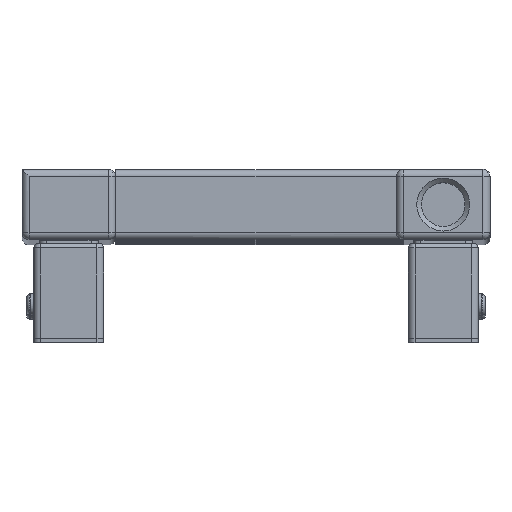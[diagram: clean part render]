
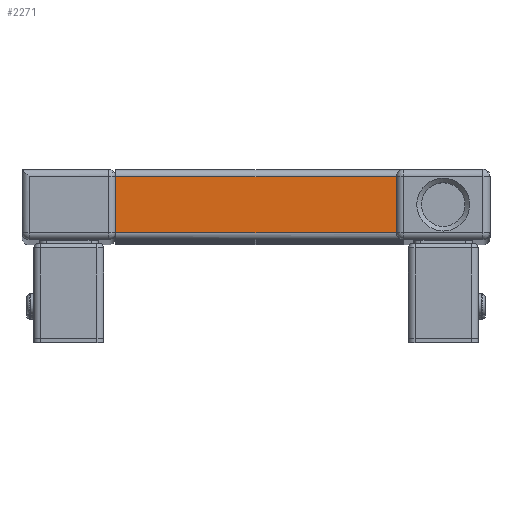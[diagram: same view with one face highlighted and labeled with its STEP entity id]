
A CAD part, top view. The second image highlights one B-rep face of the part: STEP entity #2271.
In plain terms, the highlighted planar face has unit normal (0, 0, 1).
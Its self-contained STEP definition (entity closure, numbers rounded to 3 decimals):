
#2204=CARTESIAN_POINT('',(60.,-12.,1220.0));
#2205=VERTEX_POINT('',#2204);
#2215=CARTESIAN_POINT('',(-60.0,-12.,1220.));
#2216=VERTEX_POINT('',#2215);
#2217=CARTESIAN_POINT('',(-60.0,-12.,1220.));
#2218=DIRECTION('',(1.0,0.0,0.0));
#2219=VECTOR('',#2218,120.0);
#2220=LINE('',#2217,#2219);
#2221=EDGE_CURVE('',#2216,#2205,#2220,.T.);
#2241=CARTESIAN_POINT('',(-60.0,-12.,1220.));
#2242=DIRECTION('',(0.0,0.0,1.0));
#2243=DIRECTION('',(1.0,0.0,0.0));
#2244=AXIS2_PLACEMENT_3D('',#2241,#2242,#2243);
#2245=PLANE('',#2244);
#2246=CARTESIAN_POINT('',(60.0,12.,1220.0));
#2247=VERTEX_POINT('',#2246);
#2248=CARTESIAN_POINT('',(60.0,12.,1220.));
#2249=DIRECTION('',(0.0,-1.0,0.0));
#2250=VECTOR('',#2249,24.);
#2251=LINE('',#2248,#2250);
#2252=EDGE_CURVE('',#2247,#2205,#2251,.T.);
#2253=ORIENTED_EDGE('',*,*,#2252,.F.);
#2254=CARTESIAN_POINT('',(-60.0,12.,1220.));
#2255=VERTEX_POINT('',#2254);
#2256=CARTESIAN_POINT('',(-60.0,12.,1220.));
#2257=DIRECTION('',(1.0,0.0,0.0));
#2258=VECTOR('',#2257,120.0);
#2259=LINE('',#2256,#2258);
#2260=EDGE_CURVE('',#2255,#2247,#2259,.T.);
#2261=ORIENTED_EDGE('',*,*,#2260,.F.);
#2262=CARTESIAN_POINT('',(-60.0,-12.,1220.));
#2263=DIRECTION('',(0.0,1.0,0.0));
#2264=VECTOR('',#2263,24.);
#2265=LINE('',#2262,#2264);
#2266=EDGE_CURVE('',#2216,#2255,#2265,.T.);
#2267=ORIENTED_EDGE('',*,*,#2266,.F.);
#2268=ORIENTED_EDGE('',*,*,#2221,.T.);
#2269=EDGE_LOOP('',(#2253,#2261,#2267,#2268));
#2270=FACE_OUTER_BOUND('',#2269,.T.);
#2271=ADVANCED_FACE('',(#2270),#2245,.T.);
